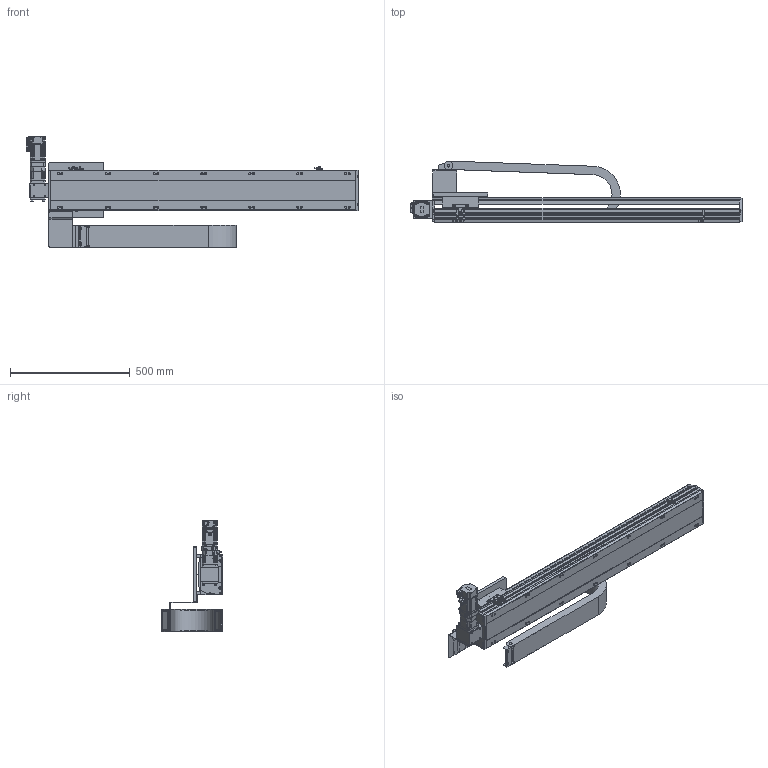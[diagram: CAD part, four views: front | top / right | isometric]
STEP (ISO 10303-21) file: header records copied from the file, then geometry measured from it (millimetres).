
FILE_DESCRIPTION(/* description */ ('STEP AP214'),/* implementation_level */ '2;1');
FILE_NAME(/* name */ 'C:\Users\T18064\Desktop\Olympus\ETB17M-L10-1000-L-X40-C4P2-EL35.stp',/* time_stamp */ '2024-05-16T16:03:28+08:00',/* author */ ('T18064'),/* organization */ ('CADENAS'),/* preprocessor_version */ 'ST-DEVELOPER v18',/* originating_system */ 'Autodesk Inventor 2020',/* authorisation */ ' ');
FILE_SCHEMA (('CONFIG_CONTROL_DESIGN'));
Length unit declared in the file: millimetre
Products named in the file (16): ETB17M-L10-1000-L-X40-C4P2-EL35; ETB17M-L40-1000-L-M40-C4-0001_(0)_1; ETB17M-L40-100-L-M40-C3-0001_(0)_2; ETB17M-L40-100-L-M40-C3-0001_(0)_2_1; Sensor_EE-SX672(NPN)-M_cm; 2500.07-固定端; 2500.07-移動端; 零件1; ETB17M-L10-1000; ETB17(M)-400~750W-L-配減速機; SB62-1-50M5-2; PM-FBL04AMK; PM-FBL04AMK_h; PM-FBL04AMK_s; 零件15; 零件65
Assembly tree (17 placements, depth 3):
  ETB17M-L10-1000-L-X40-C4P2-EL35
    ETB17M-L40-1000-L-M40-C4-0001_(0)_1
    ETB17M-L40-100-L-M40-C3-0001_(0)_2
    ETB17M-L40-100-L-M40-C3-0001_(0)_2_1
    Sensor_EE-SX672(NPN)-M_cm  x3
    2500.07-固定端
    2500.07-移動端
    零件1
    ETB17M-L10-1000
      ETB17(M)-400~750W-L-配減速機
      SB62-1-50M5-2
    PM-FBL04AMK
      PM-FBL04AMK_h
      PM-FBL04AMK_s
    零件15
    零件65
Bounding box: 1385.5 x 255 x 464 mm (x, y, z)
Volume: 12238813.1 mm3; surface area: 2388624.5 mm2
Topology: 32 solids, 32 shells, 3028 faces, 8095 edges, 5367 vertices
Faces by surface type: plane 2233, cylinder 594, cone 142, torus 32, bspline 19, sphere 8
Full cylindrical faces by diameter (mm): 2.48 x6, 3 x6, 3.3 x5, 3.4 x4, 4 x9, 4.134 x4, 4.2 x10, 4.5 x5, 4.917 x4, 5 x8, 5.5 x18, 5.54 x8, 5.7 x8, 6 x6, 6.647 x30, 7 x17, 8 x16, 8.5 x6, 8.9 x6, 9 x18, 9.5 x2, 10 x4, 11 x1, 11.34 x2, 12 x8, 13 x1, 13.1 x1, 13.5 x1, 14 x1, 14.2 x1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
Entity records: 90564 total; most frequent: CARTESIAN_POINT 17828, DIRECTION 15026, ORIENTED_EDGE 14996, EDGE_CURVE 7498, LINE 5172, VECTOR 5172, VERTEX_POINT 4983, AXIS2_PLACEMENT_3D 4927
